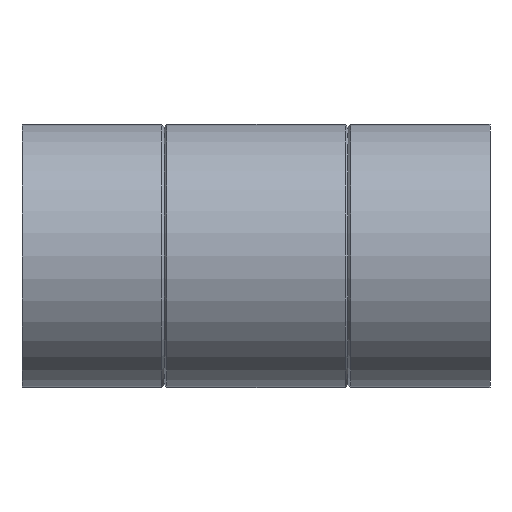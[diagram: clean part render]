
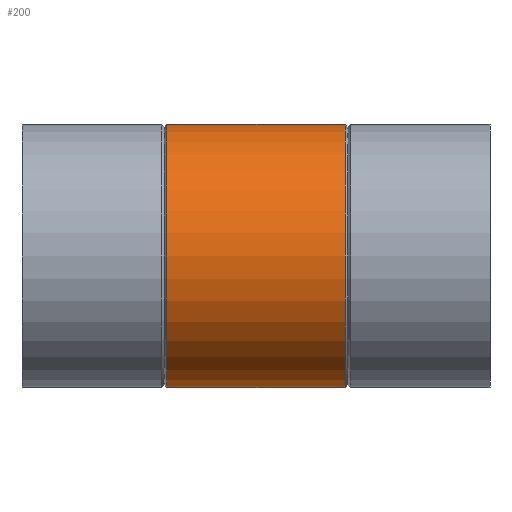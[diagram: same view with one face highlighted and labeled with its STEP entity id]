
A CAD part, left-side view. The second image highlights one B-rep face of the part: STEP entity #200.
In plain terms, the highlighted cylindrical face has radius 157.5 mm (diameter 315 mm), a full revolution.
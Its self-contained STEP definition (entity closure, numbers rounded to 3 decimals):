
#15=B_SPLINE_CURVE_WITH_KNOTS($,3,(#325,#326,#327,#328,#329,#330,#331,#332,
#333,#334,#335,#336,#337,#338,#339,#340,#341,#342,#343,#344,#345,#346,#347,
#348,#349,#350,#351,#352,#353,#354,#355,#356,#357,#358,#359,#360,#361,#362,
#363,#364,#365,#366,#367,#368,#369,#370,#371,#372,#373,#374,#375,#376,#377,
#378,#379,#380,#381,#382,#383,#384,#385,#386,#387,#388,#389,#390),
 .UNSPECIFIED.,.T.,.F.,(4,2,2,2,2,2,2,2,2,2,2,2,2,2,2,2,2,2,2,2,2,2,2,2,
2,2,2,2,2,2,2,2,4),(0.,1.049,2.097,3.146,
4.194,5.241,6.288,7.335,8.382,
9.428,10.473,11.519,12.564,13.614,
14.664,15.714,16.764,17.806,18.849,
19.891,20.933,21.978,23.023,24.068,
25.113,26.158,27.202,28.247,29.292,
30.334,31.377,32.419,33.461),
 .UNSPECIFIED.);
#17=CYLINDRICAL_SURFACE($,#222,157.5);
#26=FACE_BOUND($,#63,.T.);
#27=FACE_BOUND($,#64,.T.);
#48=FACE_OUTER_BOUND($,#62,.T.);
#62=EDGE_LOOP($,(#145));
#63=EDGE_LOOP($,(#146));
#64=EDGE_LOOP($,(#147));
#94=CIRCLE($,#221,157.5);
#95=CIRCLE($,#223,157.5);
#109=VERTEX_POINT($,#319);
#110=VERTEX_POINT($,#322);
#111=VERTEX_POINT($,#324);
#126=EDGE_CURVE($,#109,#109,#94,.T.);
#127=EDGE_CURVE($,#110,#110,#95,.T.);
#128=EDGE_CURVE($,#111,#111,#15,.T.);
#145=ORIENTED_EDGE($,*,*,#127,.T.);
#146=ORIENTED_EDGE($,*,*,#128,.T.);
#147=ORIENTED_EDGE($,*,*,#126,.T.);
#200=ADVANCED_FACE($,(#48,#26,#27),#17,.T.);
#221=AXIS2_PLACEMENT_3D($,#320,#258,#259);
#222=AXIS2_PLACEMENT_3D($,#321,#260,#261);
#223=AXIS2_PLACEMENT_3D($,#323,#262,#263);
#258=DIRECTION('center_axis',(0.,-1.,0.));
#259=DIRECTION('ref_axis',(1.,0.,0.));
#260=DIRECTION('center_axis',(0.,1.,0.));
#261=DIRECTION('ref_axis',(1.,0.,0.));
#262=DIRECTION('center_axis',(0.,1.,0.));
#263=DIRECTION('ref_axis',(1.,0.,0.));
#319=CARTESIAN_POINT('',(157.5,386.85,0.));
#320=CARTESIAN_POINT('Origin',(0.,386.85,0.));
#321=CARTESIAN_POINT('Origin',(0.,0.,0.));
#322=CARTESIAN_POINT('',(-157.5,173.15,0.));
#323=CARTESIAN_POINT('Origin',(0.,173.15,0.));
#324=CARTESIAN_POINT('',(147.585,283.865,55.));
#325=CARTESIAN_POINT('Ctrl Pts',(147.585,283.865,55.));
#326=CARTESIAN_POINT('Ctrl Pts',(147.585,287.36,55.));
#327=CARTESIAN_POINT('Ctrl Pts',(147.712,290.964,54.662));
#328=CARTESIAN_POINT('Ctrl Pts',(148.226,298.114,53.252));
#329=CARTESIAN_POINT('Ctrl Pts',(148.612,301.661,52.181));
#330=CARTESIAN_POINT('Ctrl Pts',(149.571,308.45,49.365));
#331=CARTESIAN_POINT('Ctrl Pts',(150.144,311.699,47.618));
#332=CARTESIAN_POINT('Ctrl Pts',(151.362,317.703,43.593));
#333=CARTESIAN_POINT('Ctrl Pts',(152.005,320.46,41.315));
#334=CARTESIAN_POINT('Ctrl Pts',(153.24,325.338,36.471));
#335=CARTESIAN_POINT('Ctrl Pts',(153.875,327.633,33.734));
#336=CARTESIAN_POINT('Ctrl Pts',(155.064,331.692,27.763));
#337=CARTESIAN_POINT('Ctrl Pts',(155.616,333.456,24.528));
#338=CARTESIAN_POINT('Ctrl Pts',(156.532,336.299,17.762));
#339=CARTESIAN_POINT('Ctrl Pts',(156.897,337.38,14.224));
#340=CARTESIAN_POINT('Ctrl Pts',(157.381,338.802,7.088));
#341=CARTESIAN_POINT('Ctrl Pts',(157.5,339.143,3.49));
#342=CARTESIAN_POINT('Ctrl Pts',(157.5,339.143,-3.485));
#343=CARTESIAN_POINT('Ctrl Pts',(157.381,338.803,-7.079));
#344=CARTESIAN_POINT('Ctrl Pts',(156.899,337.384,-14.206));
#345=CARTESIAN_POINT('Ctrl Pts',(156.535,336.306,-17.74));
#346=CARTESIAN_POINT('Ctrl Pts',(155.62,333.47,-24.5));
#347=CARTESIAN_POINT('Ctrl Pts',(155.069,331.71,-27.732));
#348=CARTESIAN_POINT('Ctrl Pts',(153.883,327.661,-33.698));
#349=CARTESIAN_POINT('Ctrl Pts',(153.249,325.371,-36.433));
#350=CARTESIAN_POINT('Ctrl Pts',(152.014,320.497,-41.282));
#351=CARTESIAN_POINT('Ctrl Pts',(151.369,317.739,-43.566));
#352=CARTESIAN_POINT('Ctrl Pts',(150.15,311.73,-47.6));
#353=CARTESIAN_POINT('Ctrl Pts',(149.576,308.479,-49.352));
#354=CARTESIAN_POINT('Ctrl Pts',(148.615,301.683,-52.174));
#355=CARTESIAN_POINT('Ctrl Pts',(148.228,298.132,-53.248));
#356=CARTESIAN_POINT('Ctrl Pts',(147.713,290.973,-54.661));
#357=CARTESIAN_POINT('Ctrl Pts',(147.585,287.365,-55.));
#358=CARTESIAN_POINT('Ctrl Pts',(147.585,280.39,-55.));
#359=CARTESIAN_POINT('Ctrl Pts',(147.711,276.807,-54.666));
#360=CARTESIAN_POINT('Ctrl Pts',(148.222,269.7,-53.265));
#361=CARTESIAN_POINT('Ctrl Pts',(148.606,266.176,-52.2));
#362=CARTESIAN_POINT('Ctrl Pts',(149.562,259.436,-49.392));
#363=CARTESIAN_POINT('Ctrl Pts',(150.135,256.214,-47.647));
#364=CARTESIAN_POINT('Ctrl Pts',(151.352,250.264,-43.625));
#365=CARTESIAN_POINT('Ctrl Pts',(151.996,247.537,-41.347));
#366=CARTESIAN_POINT('Ctrl Pts',(153.234,242.708,-36.495));
#367=CARTESIAN_POINT('Ctrl Pts',(153.872,240.437,-33.75));
#368=CARTESIAN_POINT('Ctrl Pts',(155.064,236.429,-27.763));
#369=CARTESIAN_POINT('Ctrl Pts',(155.617,234.691,-24.523));
#370=CARTESIAN_POINT('Ctrl Pts',(156.534,231.894,-17.748));
#371=CARTESIAN_POINT('Ctrl Pts',(156.898,230.833,-14.209));
#372=CARTESIAN_POINT('Ctrl Pts',(157.382,229.439,-7.077));
#373=CARTESIAN_POINT('Ctrl Pts',(157.5,229.105,-3.483));
#374=CARTESIAN_POINT('Ctrl Pts',(157.5,229.105,3.483));
#375=CARTESIAN_POINT('Ctrl Pts',(157.382,229.439,7.077));
#376=CARTESIAN_POINT('Ctrl Pts',(156.898,230.833,14.209));
#377=CARTESIAN_POINT('Ctrl Pts',(156.534,231.894,17.748));
#378=CARTESIAN_POINT('Ctrl Pts',(155.617,234.691,24.523));
#379=CARTESIAN_POINT('Ctrl Pts',(155.064,236.429,27.763));
#380=CARTESIAN_POINT('Ctrl Pts',(153.872,240.437,33.75));
#381=CARTESIAN_POINT('Ctrl Pts',(153.234,242.708,36.495));
#382=CARTESIAN_POINT('Ctrl Pts',(151.996,247.537,41.347));
#383=CARTESIAN_POINT('Ctrl Pts',(151.352,250.264,43.625));
#384=CARTESIAN_POINT('Ctrl Pts',(150.135,256.214,47.647));
#385=CARTESIAN_POINT('Ctrl Pts',(149.562,259.436,49.392));
#386=CARTESIAN_POINT('Ctrl Pts',(148.606,266.176,52.2));
#387=CARTESIAN_POINT('Ctrl Pts',(148.222,269.7,53.265));
#388=CARTESIAN_POINT('Ctrl Pts',(147.711,276.807,54.666));
#389=CARTESIAN_POINT('Ctrl Pts',(147.585,280.39,55.));
#390=CARTESIAN_POINT('Ctrl Pts',(147.585,283.865,55.));
